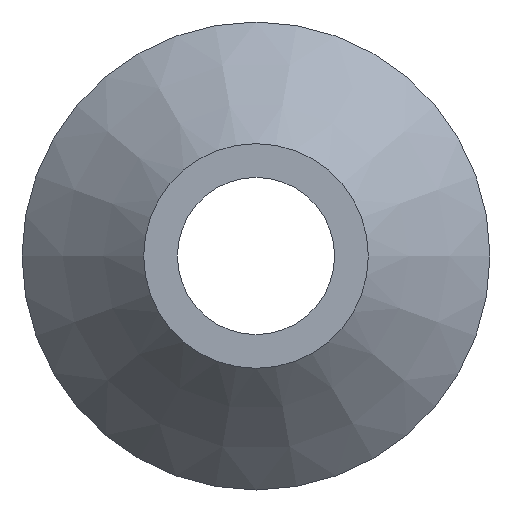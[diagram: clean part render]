
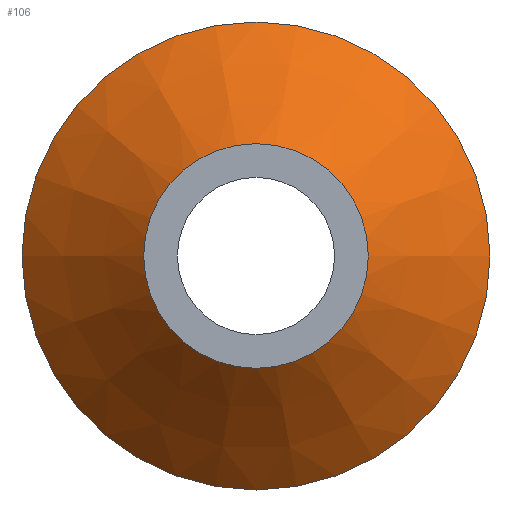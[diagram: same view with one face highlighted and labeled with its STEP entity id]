
A CAD part, left-side view. The second image highlights one B-rep face of the part: STEP entity #106.
In plain terms, the highlighted conical face has half-angle 45 degrees and reference radius 1.175 mm.
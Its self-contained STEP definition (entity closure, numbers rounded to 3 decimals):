
#22=FACE_BOUND($,#44,.T.);
#34=FACE_OUTER_BOUND($,#43,.T.);
#43=EDGE_LOOP($,(#88));
#44=EDGE_LOOP($,(#89));
#58=CIRCLE($,#121,0.762);
#60=CIRCLE($,#124,1.588);
#67=VERTEX_POINT($,#181);
#69=VERTEX_POINT($,#186);
#76=EDGE_CURVE($,#67,#67,#58,.T.);
#78=EDGE_CURVE($,#69,#69,#60,.T.);
#88=ORIENTED_EDGE($,*,*,#78,.F.);
#89=ORIENTED_EDGE($,*,*,#76,.T.);
#101=CONICAL_SURFACE($,#123,1.175,45.);
#106=ADVANCED_FACE($,(#34,#22),#101,.T.);
#121=AXIS2_PLACEMENT_3D($,#182,#147,#148);
#123=AXIS2_PLACEMENT_3D($,#185,#151,#152);
#124=AXIS2_PLACEMENT_3D($,#187,#153,#154);
#147=DIRECTION('center_axis',(1.,0.,0.));
#148=DIRECTION('ref_axis',(0.,1.,0.));
#151=DIRECTION('center_axis',(1.,0.,0.));
#152=DIRECTION('ref_axis',(0.,1.,0.));
#153=DIRECTION('center_axis',(1.,0.,0.));
#154=DIRECTION('ref_axis',(0.,1.,0.));
#181=CARTESIAN_POINT('',(3.96,0.762,0.));
#182=CARTESIAN_POINT('Origin',(3.96,0.,0.));
#185=CARTESIAN_POINT('Origin',(4.373,0.,0.));
#186=CARTESIAN_POINT('',(4.786,1.588,0.));
#187=CARTESIAN_POINT('Origin',(4.786,0.,0.));
